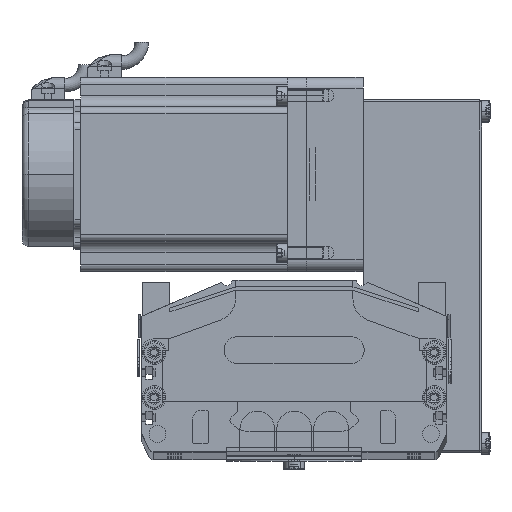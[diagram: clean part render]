
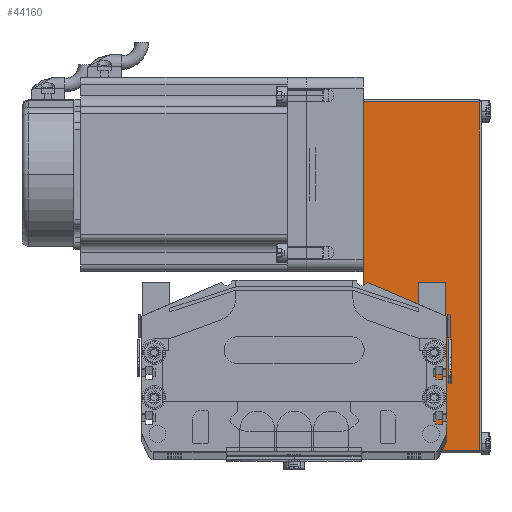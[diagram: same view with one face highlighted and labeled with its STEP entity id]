
A CAD part, top view. The second image highlights one B-rep face of the part: STEP entity #44160.
In plain terms, the highlighted planar face has unit normal (0, 0, 1) as drawn and (0, -1, 0) by its records, which use the part's own axes.
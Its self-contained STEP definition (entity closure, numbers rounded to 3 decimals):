
#42817 = VERTEX_POINT ( 'NONE', #58099 ) ;
#42828 = VERTEX_POINT ( 'NONE', #58113 ) ;
#42996 = EDGE_CURVE ( 'NONE', #42817, #42828, #58208, .T. ) ;
#43490 = ORIENTED_EDGE ( 'NONE', *, *, #42996, .T. ) ;
#43500 = EDGE_LOOP ( 'NONE', ( #43490, #44026, #44157, #43873 ) ) ;
#43764 = VERTEX_POINT ( 'NONE', #59748 ) ;
#43766 = VERTEX_POINT ( 'NONE', #59738 ) ;
#43873 = ORIENTED_EDGE ( 'NONE', *, *, #44171, .T. ) ;
#44026 = ORIENTED_EDGE ( 'NONE', *, *, #44162, .T. ) ;
#44157 = ORIENTED_EDGE ( 'NONE', *, *, #44169, .T. ) ;
#44160 = ADVANCED_FACE ( 'NONE', ( #60347 ), #60326, .F. ) ;
#44162 = EDGE_CURVE ( 'NONE', #42828, #43766, #60742, .T. ) ;
#44169 = EDGE_CURVE ( 'NONE', #43766, #43764, #60597, .T. ) ;
#44171 = EDGE_CURVE ( 'NONE', #43764, #42817, #58867, .T. ) ;
#58099 = CARTESIAN_POINT ( 'NONE',  ( -123.2, -40., 0. ) ) ;
#58113 = CARTESIAN_POINT ( 'NONE',  ( 31., -40., 0. ) ) ;
#58205 = DIRECTION ( 'NONE',  ( 1., 0., 0. ) ) ;
#58206 = VECTOR ( 'NONE', #58205, 1000. ) ;
#58207 = CARTESIAN_POINT ( 'NONE',  ( 32., -40., 0. ) ) ;
#58208 = LINE ( 'NONE', #58207, #58206 ) ;
#58867 = LINE ( 'NONE', #59168, #58876 ) ;
#58874 = DIRECTION ( 'NONE',  ( 0., 0., -1. ) ) ;
#58876 = VECTOR ( 'NONE', #58874, 1000. ) ;
#59168 = CARTESIAN_POINT ( 'NONE',  ( -123.2, -40., 52.5 ) ) ;
#59738 = CARTESIAN_POINT ( 'NONE',  ( 31., -40., 51.5 ) ) ;
#59748 = CARTESIAN_POINT ( 'NONE',  ( -123.2, -40., 51.5 ) ) ;
#60326 = PLANE ( 'NONE',  #60331 ) ;
#60331 = AXIS2_PLACEMENT_3D ( 'NONE', #60554, #60739, #60737 ) ;
#60347 = FACE_OUTER_BOUND ( 'NONE', #43500, .T. ) ;
#60554 = CARTESIAN_POINT ( 'NONE',  ( 32., -40., 52.5 ) ) ;
#60593 = DIRECTION ( 'NONE',  ( -1., 0., 0. ) ) ;
#60594 = VECTOR ( 'NONE', #60593, 1000. ) ;
#60595 = CARTESIAN_POINT ( 'NONE',  ( 32., -40., 51.5 ) ) ;
#60597 = LINE ( 'NONE', #60595, #60594 ) ;
#60609 = DIRECTION ( 'NONE',  ( 0., 0., 1. ) ) ;
#60611 = VECTOR ( 'NONE', #60609, 1000. ) ;
#60612 = CARTESIAN_POINT ( 'NONE',  ( 31., -40., 52.5 ) ) ;
#60737 = DIRECTION ( 'NONE',  ( -1., 0., 0. ) ) ;
#60739 = DIRECTION ( 'NONE',  ( 0., 1., 0. ) ) ;
#60742 = LINE ( 'NONE', #60612, #60611 ) ;
